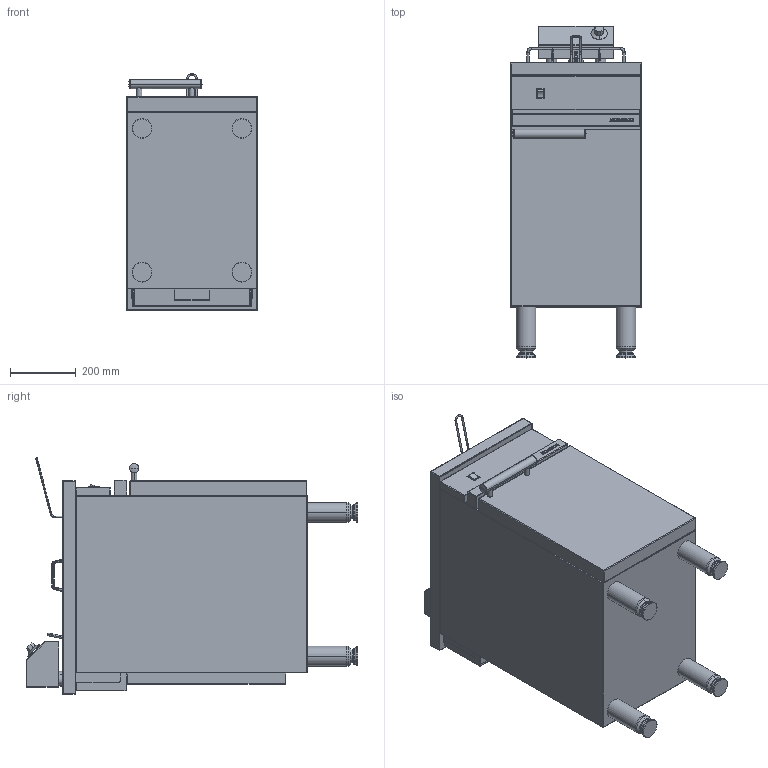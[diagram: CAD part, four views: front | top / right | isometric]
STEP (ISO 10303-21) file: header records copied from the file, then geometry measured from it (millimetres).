
FILE_DESCRIPTION((''),'2;1');
FILE_NAME('CME434FRI_CPM_D_EXPORT_STEP_ASM','2017-11-22T',('r.avril'),(''),'PRO/ENGINEER BY PARAMETRIC TECHNOLOGY CORPORATION, 2014200','PRO/ENGINEER BY PARAMETRIC TECHNOLOGY CORPORATION, 2014200','');
FILE_SCHEMA(('AP203_CONFIGURATION_CONTROLLED_3D_DESIGN_OF_MECHANICAL_PARTS_AND_ASSEMBLIES_MIM_LF { 1 0 10303 403 2 1 2 }'));
Length unit declared in the file: millimetre
Products named in the file (10): MODULES_AMB_400_EXPORT_STEP; TABLE_CME_434_FRI; MANETTE_FRITEUSE_EXPORT_STEP; 65101004; 65101004_MANETTE_VANNE; 65101004_ASM; TABLE_CME_434_FRI_ASM; BASCULEUR_AMB_EXPORT_DXF; PORTE_MODULE_AMB_400D; CME434FRI_CPM_D_EXPORT_STEP_ASM
Assembly tree (9 placements, depth 4):
  CME434FRI_CPM_D_EXPORT_STEP_ASM
    MODULES_AMB_400_EXPORT_STEP
    TABLE_CME_434_FRI_ASM
      TABLE_CME_434_FRI
      MANETTE_FRITEUSE_EXPORT_STEP
      65101004_ASM
        65101004
        65101004_MANETTE_VANNE
    BASCULEUR_AMB_EXPORT_DXF
    PORTE_MODULE_AMB_400D
Bounding box: 400 x 1011.53 x 720.64 mm (x, y, z)
Volume: 60561227.5 mm3; surface area: 5738197.8 mm2
Topology: 19 solids, 37 shells, 859 faces, 2615 edges, 2084 vertices
Faces by surface type: cylinder 352, plane 277, torus 78, sphere 66, bspline 50, cone 36
Entity records: 38996 total; most frequent: CARTESIAN_POINT 10618, DIRECTION 4782, ORIENTED_EDGE 4224, EDGE_CURVE 2337, AXIS2_PLACEMENT_3D 1740, VERTEX_POINT 1562, VECTOR 1272, LINE 1272
